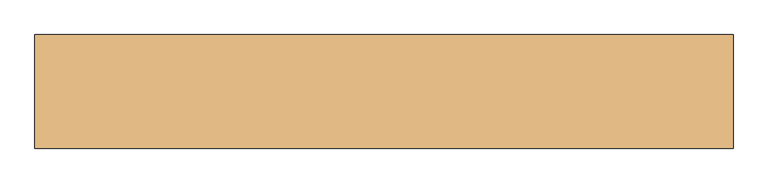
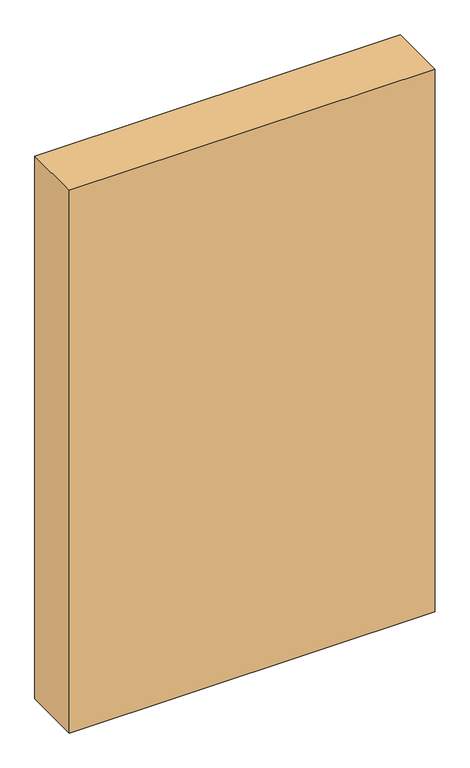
"""IFC4 building model written with IfcOpenShell, lengths in millimetres: door geometry, Dr_Проем-Простой : ДВ."""

from ifc_helpers import new_model, si_unit, frame, origin, place, context, project, spatial, polyline, outline, extrude, source, transform, mapped, element, save


def door_b4f82bfb(model_context):
    return source(origin(), model_context, "Body", "SweptSolid", [
        extrude(outline(polyline([(970.3230163, -125.0), (-559.6769837, -125.0), (-559.6769837, 125.0), (970.3230163, 125.0), (970.3230163, -125.0)])), frame((0.0, 0.0, -100.0), z_axis=(0.0, 0.0, 1.0), x_axis=(1.0, 0.0, 0.0)), (0.0, 0.0, 1.0), 2400.0),
    ])


if __name__ == "__main__":
    model = new_model("IFC4")
    model_context = context("Model", 3, world=origin())
    ifc_project = project(units=[si_unit("LENGTHUNIT", "METRE", prefix="MILLI")], contexts=[model_context])
    site = spatial("IfcSite", under=ifc_project)
    building = spatial("IfcBuilding", under=site)
    placement = place(None, origin())
    door_shape = door_b4f82bfb(model_context)
    element("IfcDoor", 1, ObjectType="Dr_Проем-Простой : ДВ", at=placement, inside=building, context=model_context, shape_type="MappedRepresentation", body=[
        mapped(door_shape, transform((0.0, 0.0, 0.0), x_axis=(1.0, 0.0, 0.0), y_axis=(0.0, 1.0, 0.0), z_axis=(0.0, 0.0, 1.0))),
    ])
    save(model, "model.ifc")
